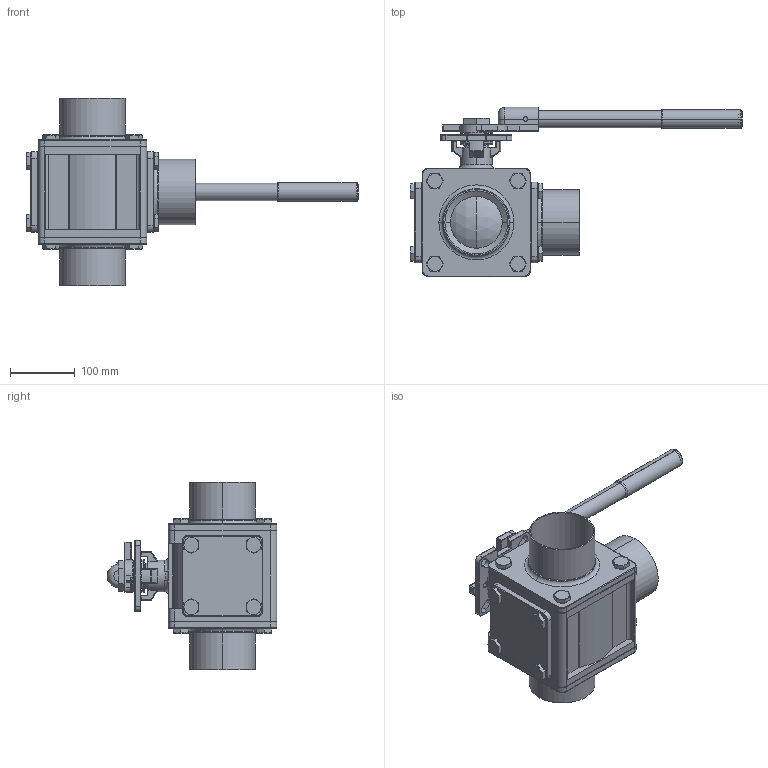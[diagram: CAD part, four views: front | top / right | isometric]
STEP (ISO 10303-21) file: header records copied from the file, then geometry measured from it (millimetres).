
FILE_DESCRIPTION (( 'STEP AP203' ), '1' );
FILE_NAME ('E93WWW-64.0.STEP', '2019-07-02T02:23:45', ( '' ), ( '' ), 'SwSTEP 2.0', 'SolidWorks 2014', '' );
FILE_SCHEMA (( 'CONFIG_CONTROL_DESIGN' ));
Length unit declared in the file: millimetre
Products named in the file (24): 9.RING3.0-4.0; 8.STEM PACKING3.0-4.0; 13.STEM3.0-4.0; 16.BOLT4.0; 21.PLAIN WASHER3.0-4.0; 1.3WAY-BODY4.0; 14.HANDLE2.5-4.0-3; 2.3WAY-CAP-W-4.0B; 10.BEVEL WASHER3.0-4.0; 19.3WAY-CAP4.0; 12.3WAY-NUT3.0-4.0; 6.THRUST WASHER3.0-4.0; 17.LOCKING TAB3.0-4.0; 7.O-RING3.0-4.0; 3.3WAY-BALL-4.0-L; 2.3WAY-CAP-W-4.0S; 18.THINNER NUT3.0-4.0; 22.SEAT2-4.0; 15.SPRING WASHER4.0; E93WWW-64.0; 4.SEAT1-4.0; 20.SEAT BACK4.0; 14.HANDLE3.0-4.0-1; 14.HANDLE3.0-4.0-2
Assembly tree (57 placements, depth 2):
  E93WWW-64.0
    1.3WAY-BODY4.0
    4.SEAT1-4.0  x2
    20.SEAT BACK4.0
    22.SEAT2-4.0  x2
    13.STEM3.0-4.0
    6.THRUST WASHER3.0-4.0
    7.O-RING3.0-4.0
    19.3WAY-CAP4.0
    15.SPRING WASHER4.0  x16
    16.BOLT4.0  x16
    8.STEM PACKING3.0-4.0
    9.RING3.0-4.0
    10.BEVEL WASHER3.0-4.0  x2
    18.THINNER NUT3.0-4.0
    17.LOCKING TAB3.0-4.0
    21.PLAIN WASHER3.0-4.0
    14.HANDLE2.5-4.0-3
    14.HANDLE3.0-4.0-1
    14.HANDLE3.0-4.0-2
    12.3WAY-NUT3.0-4.0
    2.3WAY-CAP-W-4.0B  x2
    2.3WAY-CAP-W-4.0S
    3.3WAY-BALL-4.0-L
Bounding box: 513.7 x 262.39 x 290 mm (x, y, z)
Volume: 4047830.4 mm3; surface area: 949890.4 mm2
Topology: 58 solids, 58 shells, 1501 faces, 3390 edges, 2008 vertices
Faces by surface type: cylinder 554, plane 402, cone 247, torus 184, sphere 59, bspline 55
Entity records: 35266 total; most frequent: CARTESIAN_POINT 8231, DIRECTION 5407, ORIENTED_EDGE 4676, EDGE_CURVE 2338, AXIS2_PLACEMENT_3D 2280, VERTEX_POINT 1386, CIRCLE 1255, EDGE_LOOP 1130
